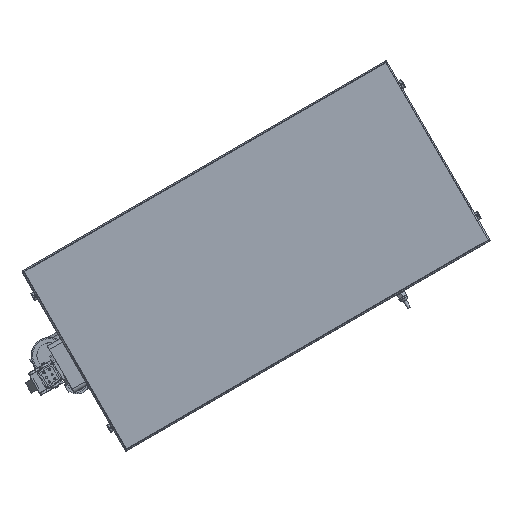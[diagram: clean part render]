
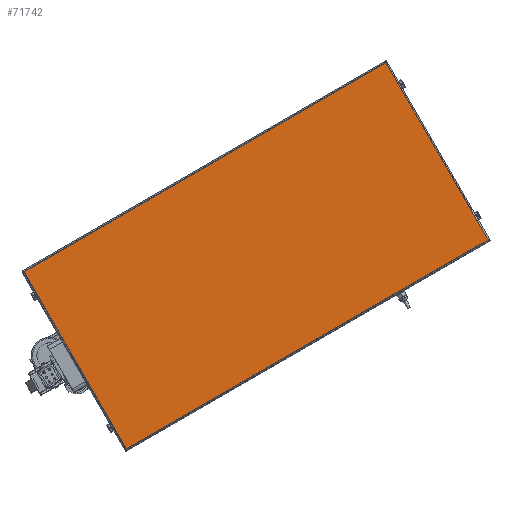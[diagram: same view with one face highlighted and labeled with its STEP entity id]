
A CAD part, top view. The second image highlights one B-rep face of the part: STEP entity #71742.
In plain terms, the highlighted planar face has unit normal (0, 0, 1).
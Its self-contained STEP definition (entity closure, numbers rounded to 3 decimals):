
#100 = EDGE_LOOP ( 'NONE', ( #36008, #1648, #29201, #10569 ) ) ;
#1648 = ORIENTED_EDGE ( 'NONE', *, *, #38394, .T. ) ;
#3472 = DIRECTION ( 'NONE',  ( 0.866, 0.5, 0. ) ) ;
#5616 = VECTOR ( 'NONE', #18239, 1000. ) ;
#6864 = CARTESIAN_POINT ( 'NONE',  ( -263.668, -292.814, 959.5 ) ) ;
#9381 = LINE ( 'NONE', #57281, #21053 ) ;
#10049 = PLANE ( 'NONE',  #32130 ) ;
#10569 = ORIENTED_EDGE ( 'NONE', *, *, #34471, .T. ) ;
#17007 = VERTEX_POINT ( 'NONE', #62572 ) ;
#18239 = DIRECTION ( 'NONE',  ( 0.5, -0.866, 0. ) ) ;
#21053 = VECTOR ( 'NONE', #51507, 1000. ) ;
#23166 = DIRECTION ( 'NONE',  ( 0.5, -0.866, 0. ) ) ;
#26615 = VECTOR ( 'NONE', #3472, 1000. ) ;
#26753 = CARTESIAN_POINT ( 'NONE',  ( 167.363, -43.381, 959.5 ) ) ;
#27563 = LINE ( 'NONE', #26753, #26615 ) ;
#29101 = VECTOR ( 'NONE', #62202, 1000. ) ;
#29201 = ORIENTED_EDGE ( 'NONE', *, *, #57318, .T. ) ;
#31760 = CARTESIAN_POINT ( 'NONE',  ( 43.381, 167.363, 959.5 ) ) ;
#32130 = AXIS2_PLACEMENT_3D ( 'NONE', #6864, #47055, #23166 ) ;
#34471 = EDGE_CURVE ( 'NONE', #40751, #47970, #27563, .T. ) ;
#36008 = ORIENTED_EDGE ( 'NONE', *, *, #56797, .T. ) ;
#37066 = VERTEX_POINT ( 'NONE', #43804 ) ;
#38394 = EDGE_CURVE ( 'NONE', #17007, #37066, #9381, .T. ) ;
#38427 = CARTESIAN_POINT ( 'NONE',  ( 165.631, -44.381, 959.5 ) ) ;
#40751 = VERTEX_POINT ( 'NONE', #63072 ) ;
#43804 = CARTESIAN_POINT ( 'NONE',  ( -384.735, -82.119, 959.5 ) ) ;
#45904 = FACE_OUTER_BOUND ( 'NONE', #100, .T. ) ;
#47055 = DIRECTION ( 'NONE',  ( 0., 0., 1. ) ) ;
#47576 = LINE ( 'NONE', #71167, #5616 ) ;
#47970 = VERTEX_POINT ( 'NONE', #38427 ) ;
#51507 = DIRECTION ( 'NONE',  ( -0.866, -0.5, 0. ) ) ;
#56797 = EDGE_CURVE ( 'NONE', #47970, #17007, #67974, .T. ) ;
#57281 = CARTESIAN_POINT ( 'NONE',  ( -386.467, -83.119, 959.5 ) ) ;
#57318 = EDGE_CURVE ( 'NONE', #37066, #40751, #47576, .T. ) ;
#62202 = DIRECTION ( 'NONE',  ( -0.5, 0.866, 0. ) ) ;
#62572 = CARTESIAN_POINT ( 'NONE',  ( 44.381, 165.631, 959.5 ) ) ;
#63072 = CARTESIAN_POINT ( 'NONE',  ( -263.485, -292.131, 959.5 ) ) ;
#67974 = LINE ( 'NONE', #31760, #29101 ) ;
#71167 = CARTESIAN_POINT ( 'NONE',  ( -262.485, -293.863, 959.5 ) ) ;
#71742 = ADVANCED_FACE ( 'NONE', ( #45904 ), #10049, .T. ) ;
